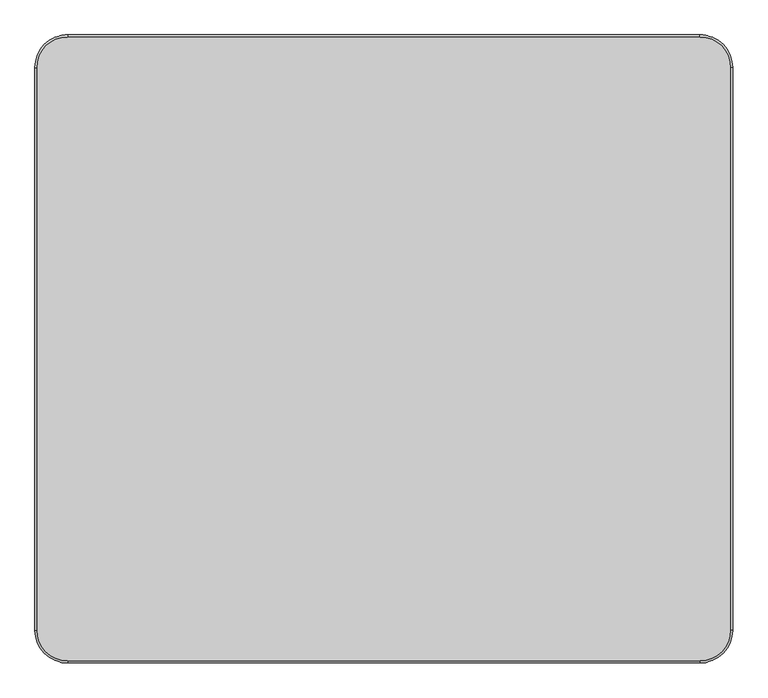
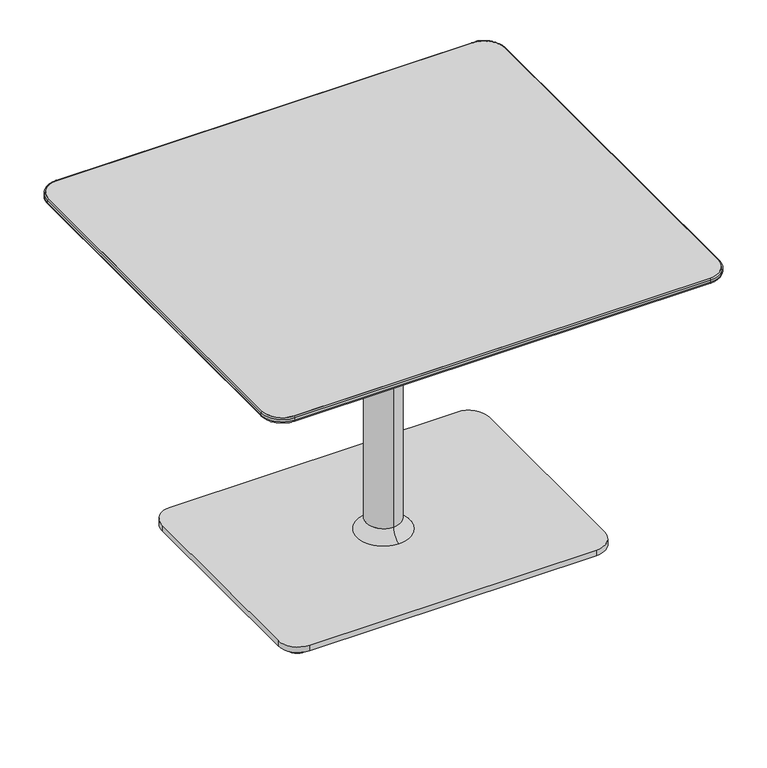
"""IFC4 building model written with IfcOpenShell, lengths in millimetres: furniture geometry, Coalesse_AM_Table_Occasional_Lagunitas_Work : 28.5H x 36D x 40W."""

from ifc_helpers import new_model, si_unit, point, frame, frame_2d, origin, origin_with_axes, place, context, project, spatial, polyline, circle_curve, ellipse_curve, trimmed, segment, composite_curve, outline, extrude, source, transform, mapped, element, save
from ifc_brep_helpers import plane_surface, cylinder_surface, revolved_surface, spline_surface, advanced_brep


def furniture_d3c9a054(model_context):
    return source(origin(), model_context, "Body", "SolidModel", [
        advanced_brep(
        [(505.2570059, 409.7063839, 711.8724172), (460.8070059, 454.1563839, 711.8724172), (-460.1969941, 454.1563839, 711.8724172), (-504.6469941, 409.7063839, 711.8724172), (-504.6469941, -409.7063839, 711.8724172), (-460.1969941, -454.1563839, 711.8724172), (460.8070059, -454.1563839, 711.8724172), (505.2570059, -409.7063839, 711.8724172), (437.4389826, 386.3390054, 693.8099277), (437.4389826, -386.3390054, 693.8099277), (-436.8289709, -386.3390054, 693.8099277), (-436.8289709, 386.3390054, 693.8099277)],
        [
            (0, 1, circle_curve(frame((460.8070059, 409.7063839, 711.8724172), z_axis=(0.0, 0.0, 1.0), x_axis=(1.0, 0.0, 0.0)), 44.45)),
            (1, 2),
            (2, 3, circle_curve(frame((-460.1969941, 409.7063839, 711.8724172), z_axis=(0.0, 0.0, 1.0), x_axis=(1.0, 0.0, 0.0)), 44.45)),
            (3, 4),
            (4, 5, circle_curve(frame((-460.1969941, -409.7063839, 711.8724172), z_axis=(0.0, 0.0, 1.0), x_axis=(1.0, 0.0, 0.0)), 44.45)),
            (5, 6),
            (6, 7, circle_curve(frame((460.8070059, -409.7063839, 711.8724172), z_axis=(0.0, 0.0, 1.0), x_axis=(1.0, 0.0, 0.0)), 44.45)),
            (7, 0),
            (8, 9),
            (9, 10),
            (10, 11),
            (11, 8),
            (0, 8),
            (8, 1),
            (11, 2),
            (11, 3),
            (10, 4),
            (10, 5),
            (9, 6),
            (9, 7),
        ],
        [
            plane_surface(frame((0.3050059, 0.0, 711.8724172), z_axis=(0.0, 0.0, 1.0), x_axis=(-1.0, 0.0, 0.0))),
            plane_surface(frame((0.3050059, 0.0, 693.8099277), z_axis=(0.0, 0.0, -1.0), x_axis=(-1.0, 0.0, 0.0))),
            spline_surface(2, 1, [[(437.4389826, 386.3390054, 693.8099277), (505.2570059, 409.7063839, 711.8724172)], [(437.4389826, 386.3390054, 693.8099277), (505.2570059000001, 454.15638390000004, 711.8724172)], [(437.4389826, 386.3390054, 693.8099277), (460.8070059, 454.1563839, 711.8724172)]], [3, 3], [2, 2], [0.0, 1.0], [0.0, 1.0], weights=[[1.0, 1.0], [0.7071067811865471, 0.7071067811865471], [1.0, 1.0]]),
            plane_surface(frame((0.3050059, 386.3390054, 693.8099277), z_axis=(0.0, 0.2573680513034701, -0.9663134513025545), x_axis=(-1.0, 0.0, 0.0))),
            spline_surface(2, 1, [[(-436.8289709, 386.3390054, 693.8099277), (-460.1969941, 454.1563839, 711.8724172)], [(-436.8289709, 386.3390054, 693.8099277), (-504.6469941, 454.1563839, 711.8724172)], [(-436.8289709, 386.3390054, 693.8099277), (-504.6469941, 409.7063839, 711.8724172)]], [3, 3], [2, 2], [0.0, 1.0], [0.0, 1.0], weights=[[1.0, 1.0], [0.7071067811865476, 0.7071067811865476], [1.0, 1.0]]),
            plane_surface(frame((-436.8289709, 0.0, 693.8099277), z_axis=(-0.2573657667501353, 0.0, -0.9663140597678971), x_axis=(0.0, -1.0, 0.0))),
            spline_surface(2, 1, [[(-436.8289709, -386.3390054, 693.8099277), (-504.6469941, -409.7063839, 711.8724172)], [(-436.8289709, -386.3390054, 693.8099277), (-504.6469941, -454.1563839, 711.8724172)], [(-436.8289709, -386.3390054, 693.8099277), (-460.1969941, -454.1563839, 711.8724172)]], [3, 3], [2, 2], [0.0, 1.0], [0.0, 1.0], weights=[[1.0, 1.0], [0.7071067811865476, 0.7071067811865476], [1.0, 1.0]]),
            plane_surface(frame((0.3050059, -386.3390054, 693.8099277), z_axis=(0.0, -0.2573680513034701, -0.9663134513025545), x_axis=(1.0, 0.0, 0.0))),
            spline_surface(2, 1, [[(437.4389826, -386.3390054, 693.8099277), (460.8070059, -454.1563839, 711.8724172)], [(437.4389826, -386.3390054, 693.8099277), (505.25700589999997, -454.1563838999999, 711.8724172)], [(437.4389826, -386.3390054, 693.8099277), (505.2570059, -409.7063839, 711.8724172)]], [3, 3], [2, 2], [0.0, 1.0], [0.0, 1.0], weights=[[1.0, 1.0], [0.707106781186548, 0.707106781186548], [1.0, 1.0]]),
            plane_surface(frame((437.4389826, 0.0, 693.8099277), z_axis=(0.25736576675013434, 0.0, -0.9663140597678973), x_axis=(0.0, 1.0, 0.0))),
        ],
        [
            (0, [[1, 2, 3, 4, 5, 6, 7, 8]]),
            (1, [[9, 10, 11, 12]]),
            (2, [[-1, 13, 14]]),
            (3, [[-12, 15, -2, -14]]),
            (4, [[-3, -15, 16]]),
            (5, [[-11, 17, -4, -16]]),
            (6, [[-5, -17, 18]]),
            (7, [[-10, 19, -6, -18]]),
            (8, [[-7, -19, 20]]),
            (9, [[-9, -13, -8, -20]]),
        ],
    ),
        extrude(outline(composite_curve([segment(trimmed(circle_curve(frame_2d((460.8070059, 409.7063839)), 44.45), [point((460.8070059, 454.1563839))], [point((505.2570059, 409.7063839))], False, "CARTESIAN"), True, "CONTINUOUS"), segment(polyline([(505.2570059, 409.7063839), (505.2570059, -409.7063839)]), True, "CONTINUOUS"), segment(trimmed(circle_curve(frame_2d((460.8070059, -409.7063839)), 44.45), [point((505.2570059, -409.7063839))], [point((460.8070059, -454.1563839))], False, "CARTESIAN"), True, "CONTINUOUS"), segment(polyline([(460.8070059, -454.1563839), (-460.1969941, -454.1563839)]), True, "CONTINUOUS"), segment(trimmed(circle_curve(frame_2d((-460.1969941, -409.7063839)), 44.45), [point((-460.1969941, -454.1563839))], [point((-504.6469941, -409.7063839))], False, "CARTESIAN"), True, "CONTINUOUS"), segment(polyline([(-504.6469941, -409.7063839), (-504.6469941, 409.7063839)]), True, "CONTINUOUS"), segment(trimmed(circle_curve(frame_2d((-460.1969941, 409.7063839)), 44.45), [point((-504.6469941, 409.7063839))], [point((-460.1969941, 454.1563839))], False, "CARTESIAN"), True, "CONTINUOUS"), segment(polyline([(-460.1969941, 454.1563839), (460.8070059, 454.1563839)]), True, "CONTINUOUS")], self_intersect=False)), frame((0.0, 0.0, 711.8724172), z_axis=(0.0, 0.0, 1.0), x_axis=(1.0, 0.0, 0.0)), (0.0, 0.0, 1.0), 12.0275828),
        extrude(outline(composite_curve([segment(trimmed(circle_curve(frame_2d((-321.7443146, 226.8029495)), 25.4), [point((-347.1443146, 226.8029495))], [point((-296.3443146, 226.8029495))], False, "CARTESIAN"), True, "CONTINUOUS"), segment(trimmed(circle_curve(frame_2d((-321.7443146, 226.8029495)), 25.4), [point((-296.3443146, 226.8029495))], [point((-347.1443146, 226.8029495))], False, "CARTESIAN"), True, "CONTINUOUS")], self_intersect=False)), origin_with_axes(), (0.0, 0.0, 1.0), 10.6571495),
        extrude(outline(composite_curve([segment(trimmed(circle_curve(frame_2d((322.3543263, 226.8029495)), 25.4), [point((296.9543263, 226.8029495))], [point((347.7543263, 226.8029495))], False, "CARTESIAN"), True, "CONTINUOUS"), segment(trimmed(circle_curve(frame_2d((322.3543263, 226.8029495)), 25.4), [point((347.7543263, 226.8029495))], [point((296.9543263, 226.8029495))], False, "CARTESIAN"), True, "CONTINUOUS")], self_intersect=False)), origin_with_axes(), (0.0, 0.0, 1.0), 10.6571495),
        extrude(outline(composite_curve([segment(trimmed(circle_curve(frame_2d((322.3543263, -226.8029495)), 25.4), [point((296.9543263, -226.8029495))], [point((347.7543263, -226.8029495))], False, "CARTESIAN"), True, "CONTINUOUS"), segment(trimmed(circle_curve(frame_2d((322.3543263, -226.8029495)), 25.4), [point((347.7543263, -226.8029495))], [point((296.9543263, -226.8029495))], False, "CARTESIAN"), True, "CONTINUOUS")], self_intersect=False)), origin_with_axes(), (0.0, 0.0, 1.0), 10.6571495),
        extrude(outline(composite_curve([segment(trimmed(circle_curve(frame_2d((-321.7443146, -226.8029495)), 25.4), [point((-347.1443146, -226.8029495))], [point((-296.3443146, -226.8029495))], False, "CARTESIAN"), True, "CONTINUOUS"), segment(trimmed(circle_curve(frame_2d((-321.7443146, -226.8029495)), 25.4), [point((-296.3443146, -226.8029495))], [point((-347.1443146, -226.8029495))], False, "CARTESIAN"), True, "CONTINUOUS")], self_intersect=False)), origin_with_axes(), (0.0, 0.0, 1.0), 10.6571495),
        extrude(outline(composite_curve([segment(trimmed(circle_curve(frame_2d((317.8050059, 222.2481833)), 44.45), [point((317.8050059, 266.6981833))], [point((362.2550059, 222.2481833))], False, "CARTESIAN"), True, "CONTINUOUS"), segment(polyline([(362.2550059, 222.2481833), (362.2550059, -222.2481833)]), True, "CONTINUOUS"), segment(trimmed(circle_curve(frame_2d((317.8050059, -222.2481833)), 44.45), [point((362.2550059, -222.2481833))], [point((317.8050059, -266.6981833))], False, "CARTESIAN"), True, "CONTINUOUS"), segment(polyline([(317.8050059, -266.6981833), (-317.1949941, -266.6981833)]), True, "CONTINUOUS"), segment(trimmed(circle_curve(frame_2d((-317.1949941, -222.2481833)), 44.45), [point((-317.1949941, -266.6981833))], [point((-361.6449941, -222.2481833))], False, "CARTESIAN"), True, "CONTINUOUS"), segment(polyline([(-361.6449941, -222.2481833), (-361.6449941, 222.2481833)]), True, "CONTINUOUS"), segment(trimmed(circle_curve(frame_2d((-317.1949941, 222.2481833)), 44.45), [point((-361.6449941, 222.2481833))], [point((-317.1949941, 266.6981833))], False, "CARTESIAN"), True, "CONTINUOUS"), segment(polyline([(-317.1949941, 266.6981833), (317.8050059, 266.6981833)]), True, "CONTINUOUS")], self_intersect=False)), frame((0.0, 0.0, 10.6571495), z_axis=(0.0, 0.0, 1.0), x_axis=(1.0, 0.0, 0.0)), (0.0, 0.0, 1.0), 12.7000004),
        advanced_brep(
        [(-507.6930954, 409.7063839, 715.6656816), (-460.1969941, 457.2024852, 715.6656816), (-460.1969941, 454.1563839, 711.8724172), (-504.6469941, 409.7063839, 711.8724172), (-507.6930954, 409.7063839, 720.8538988), (-460.1969941, 457.2024852, 720.8538988), (-504.6469941, 409.7063839, 723.9), (-460.1969941, 454.1563839, 723.9), (-504.6469941, -409.7063839, 711.8724172), (-507.6930954, -409.7063839, 715.6656816), (-507.6930954, -409.7063839, 720.8538988), (-504.6469941, -409.7063839, 723.9), (-460.1969941, -457.2024852, 715.6656816), (-460.1969941, -454.1563839, 711.8724172), (-460.1969941, -457.2024852, 720.8538988), (-460.1969941, -454.1563839, 723.9), (460.8070059, -454.1563839, 711.8724172), (460.8070059, -457.2024852, 715.6656816), (460.8070059, -457.2024852, 720.8538988), (460.8070059, -454.1563839, 723.9), (508.3031071, -409.7063839, 715.6656816), (505.2570059, -409.7063839, 711.8724172), (508.3031071, -409.7063839, 720.8538988), (505.2570059, -409.7063839, 723.9), (505.2570059, 409.7063839, 711.8724172), (508.3031071, 409.7063839, 715.6656816), (508.3031071, 409.7063839, 720.8538988), (505.2570059, 409.7063839, 723.9), (460.8070059, 457.2024852, 715.6656816), (460.8070059, 454.1563839, 711.8724172), (460.8070059, 457.2024852, 720.8538988), (460.8070059, 454.1563839, 723.9)],
        [
            (0, 1, circle_curve(frame((-460.1969941, 409.7063839, 715.6656816), z_axis=(0.0, 0.0, -1.0), x_axis=(0.0, 1.0, 0.0)), 47.4961012)),
            (1, 2, circle_curve(frame((-460.1969941, 453.3175869, 715.6656816), z_axis=(-1.0, 0.0, 0.0), x_axis=(0.0, -1.0, 0.0)), 3.8848983)),
            (2, 3, circle_curve(frame((-460.1969941, 409.7063839, 711.8724172), z_axis=(0.0, 0.0, 1.0), x_axis=(0.0, 1.0, 0.0)), 44.45)),
            (3, 0, circle_curve(frame((-503.8081971, 409.7063839, 715.6656816), z_axis=(0.0, 1.0, 0.0), x_axis=(1.0, 0.0, 0.0)), 3.8848983)),
            (4, 5, circle_curve(frame((-460.1969941, 409.7063839, 720.8538988), z_axis=(0.0, 0.0, -1.0), x_axis=(0.0, 1.0, 0.0)), 47.4961012)),
            (5, 1),
            (0, 4),
            (6, 7, circle_curve(frame((-460.1969941, 409.7063839, 723.9), z_axis=(0.0, 0.0, -1.0), x_axis=(0.0, 1.0, 0.0)), 44.45)),
            (7, 5, circle_curve(frame((-460.1969941, 454.1563839, 720.8538988), z_axis=(-1.0, 0.0, 0.0), x_axis=(0.0, -1.0, 0.0)), 3.0461012)),
            (4, 6, circle_curve(frame((-504.6469941, 409.7063839, 720.8538988), z_axis=(0.0, 1.0, 0.0), x_axis=(1.0, 0.0, 0.0)), 3.0461012)),
            (2, 7),
            (6, 3),
            (3, 8),
            (8, 9, circle_curve(frame((-503.8081971, -409.7063839, 715.6656816), z_axis=(0.0, 1.0, 0.0), x_axis=(1.0, 0.0, 0.0)), 3.8848983)),
            (9, 0),
            (9, 10),
            (10, 4),
            (10, 11, circle_curve(frame((-504.6469941, -409.7063839, 720.8538988), z_axis=(0.0, 1.0, 0.0), x_axis=(1.0, 0.0, 0.0)), 3.0461012)),
            (11, 6),
            (11, 8),
            (12, 9, circle_curve(frame((-460.1969941, -409.7063839, 715.6656816), z_axis=(0.0, 0.0, -1.0), x_axis=(-1.0, 0.0, 0.0)), 47.4961012)),
            (8, 13, circle_curve(frame((-460.1969941, -409.7063839, 711.8724172), z_axis=(0.0, 0.0, 1.0), x_axis=(-1.0, 0.0, 0.0)), 44.45)),
            (13, 12, circle_curve(frame((-460.1969941, -453.3175869, 715.6656816), z_axis=(-1.0, 0.0, 0.0), x_axis=(0.0, 1.0, 0.0)), 3.8848983)),
            (14, 10, circle_curve(frame((-460.1969941, -409.7063839, 720.8538988), z_axis=(0.0, 0.0, -1.0), x_axis=(-1.0, 0.0, 0.0)), 47.4961012)),
            (12, 14),
            (15, 11, circle_curve(frame((-460.1969941, -409.7063839, 723.9), z_axis=(0.0, 0.0, -1.0), x_axis=(-1.0, 0.0, 0.0)), 44.45)),
            (14, 15, circle_curve(frame((-460.1969941, -454.1563839, 720.8538988), z_axis=(-1.0, 0.0, 0.0), x_axis=(0.0, 1.0, 0.0)), 3.0461012)),
            (15, 13),
            (13, 16),
            (16, 17, circle_curve(frame((460.8070059, -453.3175869, 715.6656816), z_axis=(-1.0, 0.0, 0.0), x_axis=(0.0, 1.0, 0.0)), 3.8848983)),
            (17, 12),
            (17, 18),
            (18, 14),
            (18, 19, circle_curve(frame((460.8070059, -454.1563839, 720.8538988), z_axis=(-1.0, 0.0, 0.0), x_axis=(0.0, 1.0, 0.0)), 3.0461012)),
            (19, 15),
            (19, 16),
            (20, 17, circle_curve(frame((460.8070059, -409.7063839, 715.6656816), z_axis=(0.0, 0.0, -1.0), x_axis=(0.0, -1.0, 0.0)), 47.4961012)),
            (16, 21, circle_curve(frame((460.8070059, -409.7063839, 711.8724172), z_axis=(0.0, 0.0, 1.0), x_axis=(0.0, -1.0, 0.0)), 44.45)),
            (21, 20, circle_curve(frame((504.4182088, -409.7063839, 715.6656816), z_axis=(0.0, -1.0, 0.0), x_axis=(-1.0, 0.0, 0.0)), 3.8848983)),
            (22, 18, circle_curve(frame((460.8070059, -409.7063839, 720.8538988), z_axis=(0.0, 0.0, -1.0), x_axis=(0.0, -1.0, 0.0)), 47.4961012)),
            (20, 22),
            (23, 19, circle_curve(frame((460.8070059, -409.7063839, 723.9), z_axis=(0.0, 0.0, -1.0), x_axis=(0.0, -1.0, 0.0)), 44.45)),
            (22, 23, circle_curve(frame((505.2570059, -409.7063839, 720.8538988), z_axis=(0.0, -1.0, 0.0), x_axis=(-1.0, 0.0, 0.0)), 3.0461012)),
            (23, 21),
            (21, 24),
            (24, 25, circle_curve(frame((504.4182088, 409.7063839, 715.6656816), z_axis=(0.0, -1.0, 0.0), x_axis=(-1.0, 0.0, 0.0)), 3.8848983)),
            (25, 20),
            (25, 26),
            (26, 22),
            (26, 27, circle_curve(frame((505.2570059, 409.7063839, 720.8538988), z_axis=(0.0, -1.0, 0.0), x_axis=(-1.0, 0.0, 0.0)), 3.0461012)),
            (27, 23),
            (27, 24),
            (28, 25, circle_curve(frame((460.8070059, 409.7063839, 715.6656816), z_axis=(0.0, 0.0, -1.0), x_axis=(1.0, 0.0, 0.0)), 47.4961012)),
            (24, 29, circle_curve(frame((460.8070059, 409.7063839, 711.8724172), z_axis=(0.0, 0.0, 1.0), x_axis=(1.0, 0.0, 0.0)), 44.45)),
            (29, 28, circle_curve(frame((460.8070059, 453.3175869, 715.6656816), z_axis=(1.0, 0.0, 0.0), x_axis=(0.0, -1.0, 0.0)), 3.8848983)),
            (30, 26, circle_curve(frame((460.8070059, 409.7063839, 720.8538988), z_axis=(0.0, 0.0, -1.0), x_axis=(1.0, 0.0, 0.0)), 47.4961012)),
            (28, 30),
            (31, 27, circle_curve(frame((460.8070059, 409.7063839, 723.9), z_axis=(0.0, 0.0, -1.0), x_axis=(1.0, 0.0, 0.0)), 44.45)),
            (30, 31, circle_curve(frame((460.8070059, 454.1563839, 720.8538988), z_axis=(1.0, 0.0, 0.0), x_axis=(0.0, -1.0, 0.0)), 3.0461012)),
            (31, 29),
            (29, 2),
            (1, 28),
            (5, 30),
            (7, 31),
        ],
        [
            revolved_surface(trimmed(ellipse_curve(frame((-460.1969941, 453.3175869, 715.6656816), z_axis=(1.0, 0.0, 0.0), x_axis=(0.0, -1.0, 0.0)), 3.8848983, 3.8848983), [point((-460.1969941, 454.1563839, 711.8724172))], [point((-460.1969941, 457.2024852, 715.6656816))], True, "CARTESIAN"), (-460.1969941, 409.7063839, 0.0), (0.0, 0.0, 1.0)),
            cylinder_surface(frame((-460.1969941, 409.7063839, 0.0), z_axis=(0.0, 0.0, 1.0), x_axis=(0.0, 1.0, 0.0)), 47.4961012),
            revolved_surface(trimmed(ellipse_curve(frame((-460.1969941, 454.1563839, 720.8538988), z_axis=(1.0, 0.0, 0.0), x_axis=(0.0, -1.0, 0.0)), 3.0461012, 3.0461012), [point((-460.1969941, 457.2024852, 720.8538988))], [point((-460.1969941, 454.1563839, 723.9))], True, "CARTESIAN"), (-460.1969941, 409.7063839, 0.0), (0.0, 0.0, 1.0)),
            revolved_surface(polyline([(-460.1969941, 454.1563839, 723.9), (-460.1969941, 454.1563839, 711.8724172)]), (-460.1969941, 409.7063839, 0.0), (0.0, 0.0, 1.0)),
            cylinder_surface(frame((-503.8081971, 409.7063839, 715.6656816), z_axis=(0.0, 1.0, 0.0), x_axis=(1.0, 0.0, 0.0)), 3.8848983),
            plane_surface(frame((-507.6930954, 409.7063839, 715.6656816), z_axis=(-1.0, 0.0, 0.0), x_axis=(0.0, -1.0, 0.0))),
            cylinder_surface(frame((-504.6469941, 409.7063839, 720.8538988), z_axis=(0.0, 1.0, 0.0), x_axis=(1.0, 0.0, 0.0)), 3.0461012),
            plane_surface(frame((-504.6469941, 409.7063839, 723.9), z_axis=(1.0, 0.0, 0.0), x_axis=(0.0, -1.0, 0.0))),
            revolved_surface(trimmed(ellipse_curve(frame((-503.8081971, -409.7063839, 715.6656816), z_axis=(0.0, 1.0, 0.0), x_axis=(1.0, 0.0, 0.0)), 3.8848983, 3.8848983), [point((-504.6469941, -409.7063839, 711.8724172))], [point((-507.6930954, -409.7063839, 715.6656816))], True, "CARTESIAN"), (-460.1969941, -409.7063839, 0.0), (0.0, 0.0, 1.0)),
            cylinder_surface(frame((-460.1969941, -409.7063839, 0.0), z_axis=(0.0, 0.0, 1.0), x_axis=(-1.0, 0.0, 0.0)), 47.4961012),
            revolved_surface(trimmed(ellipse_curve(frame((-504.6469941, -409.7063839, 720.8538988), z_axis=(0.0, 1.0, 0.0), x_axis=(1.0, 0.0, 0.0)), 3.0461012, 3.0461012), [point((-507.6930954, -409.7063839, 720.8538988))], [point((-504.6469941, -409.7063839, 723.9))], True, "CARTESIAN"), (-460.1969941, -409.7063839, 0.0), (0.0, 0.0, 1.0)),
            revolved_surface(polyline([(-504.6469941, -409.7063839, 723.9), (-504.6469941, -409.7063839, 711.8724172)]), (-460.1969941, -409.7063839, 0.0), (0.0, 0.0, 1.0)),
            cylinder_surface(frame((-460.1969941, -453.3175869, 715.6656816), z_axis=(-1.0, 0.0, 0.0), x_axis=(0.0, 1.0, 0.0)), 3.8848983),
            plane_surface(frame((-460.1969941, -457.2024852, 715.6656816), z_axis=(0.0, -1.0, 0.0), x_axis=(1.0, 0.0, 0.0))),
            cylinder_surface(frame((-460.1969941, -454.1563839, 720.8538988), z_axis=(-1.0, 0.0, 0.0), x_axis=(0.0, 1.0, 0.0)), 3.0461012),
            plane_surface(frame((-460.1969941, -454.1563839, 723.9), z_axis=(0.0, 1.0, 0.0), x_axis=(1.0, 0.0, 0.0))),
            revolved_surface(trimmed(ellipse_curve(frame((460.8070059, -453.3175869, 715.6656816), z_axis=(-1.0, 0.0, 0.0), x_axis=(0.0, 1.0, 0.0)), 3.8848983, 3.8848983), [point((460.8070059, -454.1563839, 711.8724172))], [point((460.8070059, -457.2024852, 715.6656816))], True, "CARTESIAN"), (460.8070059, -409.7063839, 0.0), (0.0, 0.0, 1.0)),
            cylinder_surface(frame((460.8070059, -409.7063839, 0.0), z_axis=(0.0, 0.0, 1.0), x_axis=(0.0, -1.0, 0.0)), 47.4961012),
            revolved_surface(trimmed(ellipse_curve(frame((460.8070059, -454.1563839, 720.8538988), z_axis=(-1.0, 0.0, 0.0), x_axis=(0.0, 1.0, 0.0)), 3.0461012, 3.0461012), [point((460.8070059, -457.2024852, 720.8538988))], [point((460.8070059, -454.1563839, 723.9))], True, "CARTESIAN"), (460.8070059, -409.7063839, 0.0), (0.0, 0.0, 1.0)),
            revolved_surface(polyline([(460.8070059, -454.1563839, 723.9), (460.8070059, -454.1563839, 711.8724172)]), (460.8070059, -409.7063839, 0.0), (0.0, 0.0, 1.0)),
            cylinder_surface(frame((504.4182088, -409.7063839, 715.6656816), z_axis=(0.0, -1.0, 0.0), x_axis=(-1.0, 0.0, 0.0)), 3.8848983),
            plane_surface(frame((508.3031071, -409.7063839, 715.6656816), z_axis=(1.0, 0.0, 0.0), x_axis=(0.0, 1.0, 0.0))),
            cylinder_surface(frame((505.2570059, -409.7063839, 720.8538988), z_axis=(0.0, -1.0, 0.0), x_axis=(-1.0, 0.0, 0.0)), 3.0461012),
            plane_surface(frame((505.2570059, -409.7063839, 723.9), z_axis=(-1.0, 0.0, 0.0), x_axis=(0.0, 1.0, 0.0))),
            revolved_surface(trimmed(ellipse_curve(frame((504.4182088, 409.7063839, 715.6656816), z_axis=(0.0, -1.0, 0.0), x_axis=(-1.0, 0.0, 0.0)), 3.8848983, 3.8848983), [point((505.2570059, 409.7063839, 711.8724172))], [point((508.3031071, 409.7063839, 715.6656816))], True, "CARTESIAN"), (460.8070059, 409.7063839, 0.0), (0.0, 0.0, 1.0)),
            cylinder_surface(frame((460.8070059, 409.7063839, 0.0), z_axis=(0.0, 0.0, 1.0), x_axis=(1.0, 0.0, 0.0)), 47.4961012),
            revolved_surface(trimmed(ellipse_curve(frame((505.2570059, 409.7063839, 720.8538988), z_axis=(0.0, -1.0, 0.0), x_axis=(-1.0, 0.0, 0.0)), 3.0461012, 3.0461012), [point((508.3031071, 409.7063839, 720.8538988))], [point((505.2570059, 409.7063839, 723.9))], True, "CARTESIAN"), (460.8070059, 409.7063839, 0.0), (0.0, 0.0, 1.0)),
            revolved_surface(polyline([(505.25700589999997, 409.7063839, 723.9), (505.25700589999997, 409.7063839, 711.8724172)]), (460.8070059, 409.7063839, 0.0), (0.0, 0.0, 1.0)),
            cylinder_surface(frame((460.8070059, 453.3175869, 715.6656816), z_axis=(1.0, 0.0, 0.0), x_axis=(0.0, -1.0, 0.0)), 3.8848983),
            plane_surface(frame((460.8070059, 457.2024852, 715.6656816), z_axis=(0.0, 1.0, 0.0), x_axis=(-1.0, 0.0, 0.0))),
            cylinder_surface(frame((460.8070059, 454.1563839, 720.8538988), z_axis=(1.0, 0.0, 0.0), x_axis=(0.0, -1.0, 0.0)), 3.0461012),
            plane_surface(frame((460.8070059, 454.1563839, 723.9), z_axis=(0.0, -1.0, 0.0), x_axis=(-1.0, 0.0, 0.0))),
        ],
        [
            (0, [[1, 2, 3, 4]]),
            (1, [[5, 6, -1, 7]]),
            (2, [[8, 9, -5, 10]]),
            (3, [[-3, 11, -8, 12]]),
            (4, [[-4, 13, 14, 15]]),
            (5, [[-7, -15, 16, 17]]),
            (6, [[-10, -17, 18, 19]]),
            (7, [[-12, -19, 20, -13]]),
            (8, [[21, -14, 22, 23]]),
            (9, [[24, -16, -21, 25]]),
            (10, [[26, -18, -24, 27]]),
            (11, [[-22, -20, -26, 28]]),
            (12, [[-23, 29, 30, 31]]),
            (13, [[-25, -31, 32, 33]]),
            (14, [[-27, -33, 34, 35]]),
            (15, [[-28, -35, 36, -29]]),
            (16, [[37, -30, 38, 39]]),
            (17, [[40, -32, -37, 41]]),
            (18, [[42, -34, -40, 43]]),
            (19, [[-38, -36, -42, 44]]),
            (20, [[-39, 45, 46, 47]]),
            (21, [[-41, -47, 48, 49]]),
            (22, [[-43, -49, 50, 51]]),
            (23, [[-44, -51, 52, -45]]),
            (24, [[53, -46, 54, 55]]),
            (25, [[56, -48, -53, 57]]),
            (26, [[58, -50, -56, 59]]),
            (27, [[-54, -52, -58, 60]]),
            (28, [[-55, 61, -2, 62]]),
            (29, [[-57, -62, -6, 63]]),
            (30, [[-59, -63, -9, 64]]),
            (31, [[-60, -64, -11, -61]]),
        ],
    ),
        advanced_brep(
        [(0.3050059, -37.9287895, 564.3567695), (0.3050059, 37.9287895, 564.3567695), (0.3050059, 37.9287895, 50.0429711), (0.3050059, -37.9287895, 50.0429711), (0.3050059, -59.3395816, 602.3698908), (0.3050059, 59.3395816, 602.3698908), (0.3050059, -197.9068019, 686.3534968), (0.3050059, 197.9068019, 686.3534968), (0.3050059, -212.4265152, 690.4101307), (0.3050059, 212.4265152, 690.4101307), (0.3050059, -226.4292749, 690.4101307), (0.3050059, 226.4292749, 690.4101307), (0.3050059, -228.4774392, 693.8099277), (0.3050059, 228.4774392, 693.8099277), (0.3050059, 0.0, 693.8099277), (0.3050059, -60.2304855, 23.3571499), (0.3050059, 60.2304855, 23.3571499), (0.3050059, 0.0, 23.3571499)],
        [
            (0, 1, circle_curve(frame((0.3050059, 0.0, 564.3567695), z_axis=(0.0, 0.0, -1.0), x_axis=(0.0, 1.0, 0.0)), 37.9287895)),
            (1, 2),
            (2, 3, circle_curve(frame((0.3050059, 0.0, 50.0429711), z_axis=(0.0, 0.0, 1.0), x_axis=(0.0, 1.0, 0.0)), 37.9287895)),
            (3, 0),
            (1, 0, circle_curve(frame((0.3050059, 0.0, 564.3567695), z_axis=(0.0, 0.0, -1.0), x_axis=(0.0, 1.0, 0.0)), 37.9287895)),
            (3, 2, circle_curve(frame((0.3050059, 0.0, 50.0429711), z_axis=(0.0, 0.0, 1.0), x_axis=(0.0, 1.0, 0.0)), 37.9287895)),
            (4, 5, circle_curve(frame((0.3050059, 0.0, 602.3698908), z_axis=(0.0, 0.0, -1.0), x_axis=(0.0, 1.0, 0.0)), 59.3395816)),
            (5, 1, circle_curve(frame((0.3050059, 82.3787895, 564.3567695), z_axis=(1.0, 0.0, 0.0), x_axis=(0.0, 1.0, 0.0)), 44.45)),
            (0, 4, circle_curve(frame((0.3050059, -82.3787895, 564.3567695), z_axis=(1.0, 0.0, 0.0), x_axis=(0.0, -1.0, 0.0)), 44.45)),
            (5, 4, circle_curve(frame((0.3050059, 0.0, 602.3698908), z_axis=(0.0, 0.0, -1.0), x_axis=(0.0, 1.0, 0.0)), 59.3395816)),
            (6, 7, circle_curve(frame((0.3050059, 0.0, 686.3534968), z_axis=(0.0, 0.0, -1.0), x_axis=(0.0, 1.0, 0.0)), 197.9068019)),
            (7, 5),
            (4, 6),
            (7, 6, circle_curve(frame((0.3050059, 0.0, 686.3534968), z_axis=(0.0, 0.0, -1.0), x_axis=(0.0, 1.0, 0.0)), 197.9068019)),
            (8, 9, circle_curve(frame((0.3050059, 0.0, 690.4101307), z_axis=(0.0, 0.0, -1.0), x_axis=(0.0, 1.0, 0.0)), 212.4265152)),
            (9, 7, circle_curve(frame((0.3050059, 212.4265152, 662.3969605), z_axis=(1.0, 0.0, 0.0), x_axis=(0.0, 1.0, 0.0)), 28.0131702)),
            (6, 8, circle_curve(frame((0.3050059, -212.4265152, 662.3969605), z_axis=(1.0, 0.0, 0.0), x_axis=(0.0, -1.0, 0.0)), 28.0131702)),
            (9, 8, circle_curve(frame((0.3050059, 0.0, 690.4101307), z_axis=(0.0, 0.0, -1.0), x_axis=(0.0, 1.0, 0.0)), 212.4265152)),
            (10, 11, circle_curve(frame((0.3050059, 0.0, 690.4101307), z_axis=(0.0, 0.0, -1.0), x_axis=(0.0, 1.0, 0.0)), 226.4292749)),
            (11, 9),
            (8, 10),
            (11, 10, circle_curve(frame((0.3050059, 0.0, 690.4101307), z_axis=(0.0, 0.0, -1.0), x_axis=(0.0, 1.0, 0.0)), 226.4292749)),
            (12, 13, circle_curve(frame((0.3050059, 0.0, 693.8099277), z_axis=(0.0, 0.0, -1.0), x_axis=(0.0, 1.0, 0.0)), 228.4774392)),
            (13, 11, circle_curve(frame((0.3050059, 226.4292749, 692.7269744), z_axis=(-1.0, 0.0, 0.0), x_axis=(0.0, 1.0, 0.0)), 2.3168437)),
            (10, 12, circle_curve(frame((0.3050059, -226.4292749, 692.7269744), z_axis=(-1.0, 0.0, 0.0), x_axis=(0.0, -1.0, 0.0)), 2.3168437)),
            (13, 12, circle_curve(frame((0.3050059, 0.0, 693.8099277), z_axis=(0.0, 0.0, -1.0), x_axis=(0.0, 1.0, 0.0)), 228.4774392)),
            (14, 13),
            (12, 14),
            (15, 16, circle_curve(frame((0.3050059, 0.0, 23.3571499), z_axis=(0.0, 0.0, -1.0), x_axis=(0.0, 1.0, 0.0)), 60.2304855)),
            (16, 17),
            (17, 15),
            (16, 15, circle_curve(frame((0.3050059, 0.0, 23.3571499), z_axis=(0.0, 0.0, -1.0), x_axis=(0.0, 1.0, 0.0)), 60.2304855)),
            (2, 16, circle_curve(frame((0.3050059, 65.045532, 50.0429711), z_axis=(1.0, 0.0, 0.0), x_axis=(0.0, 1.0, 0.0)), 27.1167425)),
            (15, 3, circle_curve(frame((0.3050059, -65.045532, 50.0429711), z_axis=(1.0, 0.0, 0.0), x_axis=(0.0, -1.0, 0.0)), 27.1167425)),
        ],
        [
            cylinder_surface(frame((0.3050059, 0.0, 801.7745102), z_axis=(0.0, 0.0, 1.0), x_axis=(0.0, 1.0, 0.0)), 37.9287895),
            revolved_surface(trimmed(ellipse_curve(frame((0.3050059, 82.3787895, 564.3567695), z_axis=(-1.0, 0.0, 0.0), x_axis=(0.0, 1.0, 0.0)), 44.45, 44.45), [point((0.3050059, 37.9287895, 564.3567695))], [point((0.3050059, 59.3395816, 602.3698908))], True, "CARTESIAN"), (0.3050059, 0.0, 801.7745102), (0.0, 0.0, 1.0)),
            revolved_surface(polyline([(0.3050059, 59.3395816, 602.3698908), (0.3050059, 197.9068019, 686.3534968)]), (0.3050059, 0.0, 801.7745102), (0.0, 0.0, 1.0)),
            revolved_surface(trimmed(ellipse_curve(frame((0.3050059, 212.4265152, 662.3969605), z_axis=(-1.0, 0.0, 0.0), x_axis=(0.0, 1.0, 0.0)), 28.0131702, 28.0131702), [point((0.3050059, 197.9068019, 686.3534968))], [point((0.3050059, 212.4265152, 690.4101307))], True, "CARTESIAN"), (0.3050059, 0.0, 801.7745102), (0.0, 0.0, 1.0)),
            plane_surface(frame((0.3050059, 0.0, 690.4101307), z_axis=(0.0, 0.0, -1.0), x_axis=(0.0, 1.0, 0.0))),
            revolved_surface(trimmed(ellipse_curve(frame((0.3050059, 226.4292749, 692.7269744), z_axis=(1.0, 0.0, 0.0), x_axis=(0.0, 1.0, 0.0)), 2.3168437, 2.3168437), [point((0.3050059, 226.4292749, 690.4101307))], [point((0.3050059, 228.4774392, 693.8099277))], True, "CARTESIAN"), (0.3050059, 0.0, 801.7745102), (0.0, 0.0, 1.0)),
            plane_surface(frame((0.3050059, 0.0, 693.8099277), z_axis=(0.0, 0.0, 1.0), x_axis=(0.0, 1.0, 0.0))),
            plane_surface(frame((0.3050059, 0.0, 23.3571499), z_axis=(0.0, 0.0, -1.0), x_axis=(0.0, 1.0, 0.0))),
            revolved_surface(trimmed(ellipse_curve(frame((0.3050059, 65.045532, 50.0429711), z_axis=(-1.0, 0.0, 0.0), x_axis=(0.0, 1.0, 0.0)), 27.1167425, 27.1167425), [point((0.3050059, 60.2304855, 23.3571499))], [point((0.3050059, 37.9287895, 50.0429711))], True, "CARTESIAN"), (0.3050059, 0.0, 801.7745102), (0.0, 0.0, 1.0)),
        ],
        [
            (0, [[1, 2, 3, 4]]),
            (0, [[5, -4, 6, -2]]),
            (1, [[7, 8, -1, 9]]),
            (1, [[10, -9, -5, -8]]),
            (2, [[11, 12, -7, 13]]),
            (2, [[14, -13, -10, -12]]),
            (3, [[15, 16, -11, 17]]),
            (3, [[18, -17, -14, -16]]),
            (4, [[19, 20, -15, 21]]),
            (4, [[22, -21, -18, -20]]),
            (5, [[23, 24, -19, 25]]),
            (5, [[26, -25, -22, -24]]),
            (6, [[27, -23, 28]]),
            (6, [[-28, -26, -27]]),
            (7, [[29, 30, 31]]),
            (7, [[32, -31, -30]]),
            (8, [[-3, 33, -29, 34]]),
            (8, [[-6, -34, -32, -33]]),
        ],
    ),
    ])


if __name__ == "__main__":
    model = new_model("IFC4")
    model_context = context("Model", 3, world=origin())
    ifc_project = project(units=[si_unit("LENGTHUNIT", "METRE", prefix="MILLI")], contexts=[model_context])
    site = spatial("IfcSite", under=ifc_project)
    building = spatial("IfcBuilding", under=site)
    placement = place(None, origin())
    furniture_shape = furniture_d3c9a054(model_context)
    element("IfcFurniture", 1, ObjectType="Coalesse_AM_Table_Occasional_Lagunitas_Work : 28.5H x 36D x 40W", at=placement, inside=building, context=model_context, shape_type="MappedRepresentation", body=[
        mapped(furniture_shape, transform((0.0, 0.0, 0.0), x_axis=(1.0, 0.0, 0.0), y_axis=(0.0, 1.0, 0.0), z_axis=(0.0, 0.0, 1.0))),
    ])
    save(model, "model.ifc")
